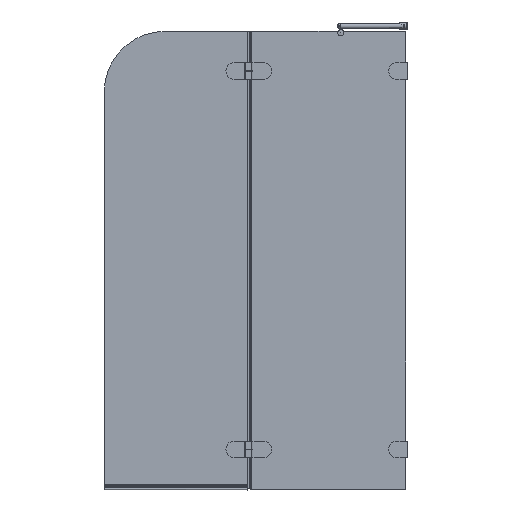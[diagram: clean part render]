
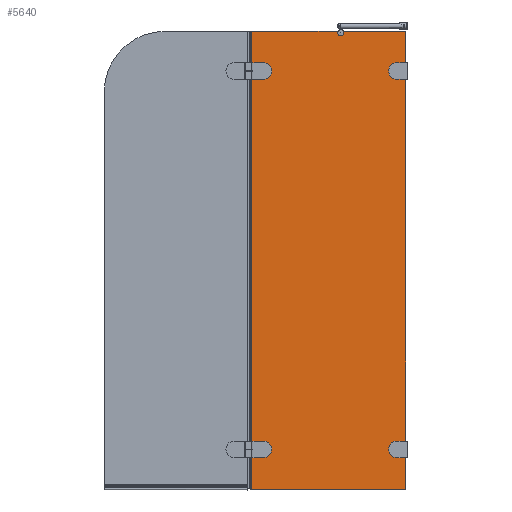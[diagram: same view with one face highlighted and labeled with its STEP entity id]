
A CAD part, front view. The second image highlights one B-rep face of the part: STEP entity #5640.
In plain terms, the highlighted planar face has unit normal (0, -1, 0).
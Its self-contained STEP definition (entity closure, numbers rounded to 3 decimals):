
#64=FACE_BOUND($,#777,.T.);
#65=FACE_BOUND($,#778,.T.);
#179=CIRCLE($,#6046,10.);
#180=CIRCLE($,#6047,26.);
#181=CIRCLE($,#6048,26.);
#452=FACE_OUTER_BOUND($,#776,.T.);
#776=EDGE_LOOP($,(#3909,#3910,#3911,#3912,#3913,#3914,#3915,#3916,#3917,
#3918,#3919));
#777=EDGE_LOOP($,(#3920,#3921,#3922,#3923));
#778=EDGE_LOOP($,(#3924,#3925,#3926,#3927));
#1126=LINE($,#8717,#1692);
#1127=LINE($,#8720,#1693);
#1130=LINE($,#8726,#1696);
#1148=LINE($,#8783,#1714);
#1161=LINE($,#8821,#1727);
#1166=LINE($,#8834,#1732);
#1167=LINE($,#8835,#1733);
#1168=LINE($,#8836,#1734);
#1169=LINE($,#8838,#1735);
#1170=LINE($,#8839,#1736);
#1171=LINE($,#8842,#1737);
#1172=LINE($,#8844,#1738);
#1173=LINE($,#8847,#1739);
#1174=LINE($,#8850,#1740);
#1175=LINE($,#8852,#1741);
#1176=LINE($,#8855,#1742);
#1692=VECTOR($,#6793,510.);
#1693=VECTOR($,#6796,1.);
#1696=VECTOR($,#6801,2.557);
#1714=VECTOR($,#6845,2.443);
#1727=VECTOR($,#6872,283.666);
#1732=VECTOR($,#6885,1500.);
#1733=VECTOR($,#6886,1500.);
#1734=VECTOR($,#6887,1500.);
#1735=VECTOR($,#6888,1501.);
#1736=VECTOR($,#6889,203.474);
#1737=VECTOR($,#6890,52.);
#1738=VECTOR($,#6891,23.);
#1739=VECTOR($,#6894,23.);
#1740=VECTOR($,#6895,52.);
#1741=VECTOR($,#6896,23.);
#1742=VECTOR($,#6899,23.);
#2296=VERTEX_POINT($,#8713);
#2297=VERTEX_POINT($,#8715);
#2298=VERTEX_POINT($,#8719);
#2299=VERTEX_POINT($,#8724);
#2300=VERTEX_POINT($,#8725);
#2325=VERTEX_POINT($,#8780);
#2326=VERTEX_POINT($,#8782);
#2327=VERTEX_POINT($,#8785);
#2344=VERTEX_POINT($,#8819);
#2348=VERTEX_POINT($,#8832);
#2349=VERTEX_POINT($,#8837);
#2350=VERTEX_POINT($,#8840);
#2351=VERTEX_POINT($,#8841);
#2352=VERTEX_POINT($,#8843);
#2353=VERTEX_POINT($,#8845);
#2354=VERTEX_POINT($,#8848);
#2355=VERTEX_POINT($,#8849);
#2356=VERTEX_POINT($,#8851);
#2357=VERTEX_POINT($,#8853);
#2876=EDGE_CURVE($,#2296,#2297,#1126,.T.);
#2877=EDGE_CURVE($,#2296,#2298,#1127,.T.);
#2880=EDGE_CURVE($,#2299,#2300,#1130,.T.);
#2908=EDGE_CURVE($,#2325,#2326,#1148,.T.);
#2928=EDGE_CURVE($,#2344,#2327,#1161,.T.);
#2934=EDGE_CURVE($,#2327,#2348,#179,.T.);
#2935=EDGE_CURVE($,#2344,#2299,#1166,.T.);
#2936=EDGE_CURVE($,#2300,#2326,#1167,.T.);
#2937=EDGE_CURVE($,#2325,#2298,#1168,.T.);
#2938=EDGE_CURVE($,#2349,#2297,#1169,.T.);
#2939=EDGE_CURVE($,#2348,#2349,#1170,.T.);
#2940=EDGE_CURVE($,#2350,#2351,#1171,.T.);
#2941=EDGE_CURVE($,#2352,#2350,#1172,.T.);
#2942=EDGE_CURVE($,#2353,#2352,#180,.T.);
#2943=EDGE_CURVE($,#2351,#2353,#1173,.T.);
#2944=EDGE_CURVE($,#2354,#2355,#1174,.T.);
#2945=EDGE_CURVE($,#2356,#2354,#1175,.T.);
#2946=EDGE_CURVE($,#2357,#2356,#181,.T.);
#2947=EDGE_CURVE($,#2355,#2357,#1176,.T.);
#3909=ORIENTED_EDGE($,*,*,#2934,.F.);
#3910=ORIENTED_EDGE($,*,*,#2928,.F.);
#3911=ORIENTED_EDGE($,*,*,#2935,.T.);
#3912=ORIENTED_EDGE($,*,*,#2880,.T.);
#3913=ORIENTED_EDGE($,*,*,#2936,.T.);
#3914=ORIENTED_EDGE($,*,*,#2908,.F.);
#3915=ORIENTED_EDGE($,*,*,#2937,.T.);
#3916=ORIENTED_EDGE($,*,*,#2877,.F.);
#3917=ORIENTED_EDGE($,*,*,#2876,.T.);
#3918=ORIENTED_EDGE($,*,*,#2938,.F.);
#3919=ORIENTED_EDGE($,*,*,#2939,.F.);
#3920=ORIENTED_EDGE($,*,*,#2940,.F.);
#3921=ORIENTED_EDGE($,*,*,#2941,.F.);
#3922=ORIENTED_EDGE($,*,*,#2942,.F.);
#3923=ORIENTED_EDGE($,*,*,#2943,.F.);
#3924=ORIENTED_EDGE($,*,*,#2944,.F.);
#3925=ORIENTED_EDGE($,*,*,#2945,.F.);
#3926=ORIENTED_EDGE($,*,*,#2946,.F.);
#3927=ORIENTED_EDGE($,*,*,#2947,.F.);
#5075=PLANE($,#6045);
#5640=ADVANCED_FACE($,(#452,#64,#65),#5075,.F.);
#6045=AXIS2_PLACEMENT_3D($,#8831,#6881,#6882);
#6046=AXIS2_PLACEMENT_3D($,#8833,#6883,#6884);
#6047=AXIS2_PLACEMENT_3D($,#8846,#6892,#6893);
#6048=AXIS2_PLACEMENT_3D($,#8854,#6897,#6898);
#6793=DIRECTION($,(1.,0.,0.));
#6796=DIRECTION($,(0.,0.,1.));
#6801=DIRECTION($,(-1.,0.,0.));
#6845=DIRECTION($,(1.,0.,0.));
#6872=DIRECTION($,(1.,0.,0.));
#6881=DIRECTION('center_axis',(0.,1.,0.));
#6882=DIRECTION('ref_axis',(1.,0.,0.));
#6883=DIRECTION('center_axis',(0.,-1.,0.));
#6884=DIRECTION('ref_axis',(0.,0.,
-1.));
#6885=DIRECTION($,(0.,0.,-1.));
#6886=DIRECTION($,(0.,0.,1.));
#6887=DIRECTION($,(0.,0.,-1.));
#6888=DIRECTION($,(0.,0.,-1.));
#6889=DIRECTION($,(1.,0.,0.));
#6890=DIRECTION($,(0.,0.,-1.));
#6891=DIRECTION($,(-1.,0.,0.));
#6892=DIRECTION('center_axis',(0.,-1.,0.));
#6893=DIRECTION('ref_axis',(0.,0.,
-1.));
#6894=DIRECTION($,(1.,0.,0.));
#6895=DIRECTION($,(0.,0.,-1.));
#6896=DIRECTION($,(-1.,0.,0.));
#6897=DIRECTION('center_axis',(0.,-1.,0.));
#6898=DIRECTION('ref_axis',(0.,0.,
-1.));
#6899=DIRECTION($,(1.,0.,0.));
#8713=CARTESIAN_POINT('',(1324.733,-34.044,24.944));
#8715=CARTESIAN_POINT('',(1834.733,-34.044,24.944));
#8717=CARTESIAN_POINT($,(1324.733,-34.044,24.944));
#8719=CARTESIAN_POINT('',(1324.733,-34.044,25.944));
#8720=CARTESIAN_POINT($,(1324.733,-34.044,24.944));
#8724=CARTESIAN_POINT('',(1329.733,-34.044,25.944));
#8725=CARTESIAN_POINT('',(1327.176,-34.044,25.944));
#8726=CARTESIAN_POINT($,(1325.336,-34.044,25.944));
#8780=CARTESIAN_POINT('',(1324.733,-34.044,1525.944));
#8782=CARTESIAN_POINT('',(1327.176,-34.044,1525.944));
#8783=CARTESIAN_POINT($,(1324.733,-34.044,1525.944));
#8785=CARTESIAN_POINT('',(1613.399,-34.044,1525.944));
#8819=CARTESIAN_POINT('',(1329.733,-34.044,1525.944));
#8821=CARTESIAN_POINT($,(1324.733,-34.044,1525.944));
#8831=CARTESIAN_POINT('Origin',(1324.733,-34.044,1525.944));
#8832=CARTESIAN_POINT('',(1631.259,-34.044,1525.944));
#8833=CARTESIAN_POINT('Origin',(1622.329,-34.044,1521.444));
#8834=CARTESIAN_POINT($,(1329.733,-34.044,1525.944));
#8835=CARTESIAN_POINT($,(1327.176,-34.044,1525.944));
#8836=CARTESIAN_POINT($,(1324.733,-34.044,1525.944));
#8837=CARTESIAN_POINT('',(1834.733,-34.044,1525.944));
#8838=CARTESIAN_POINT($,(1834.733,-34.044,1525.944));
#8839=CARTESIAN_POINT($,(1324.733,-34.044,1525.944));
#8840=CARTESIAN_POINT('',(1345.733,-34.044,181.944));
#8841=CARTESIAN_POINT('',(1345.733,-34.044,129.944));
#8842=CARTESIAN_POINT($,(1345.733,-34.044,181.944));
#8843=CARTESIAN_POINT('',(1368.733,-34.044,181.944));
#8844=CARTESIAN_POINT($,(1368.733,-34.044,181.944));
#8845=CARTESIAN_POINT('',(1368.733,-34.044,129.944));
#8846=CARTESIAN_POINT('Origin',(1368.733,-34.044,155.944));
#8847=CARTESIAN_POINT($,(1345.733,-34.044,129.944));
#8848=CARTESIAN_POINT('',(1345.733,-34.044,1421.944));
#8849=CARTESIAN_POINT('',(1345.733,-34.044,1369.944));
#8850=CARTESIAN_POINT($,(1345.733,-34.044,1421.944));
#8851=CARTESIAN_POINT('',(1368.733,-34.044,1421.944));
#8852=CARTESIAN_POINT($,(1368.733,-34.044,1421.944));
#8853=CARTESIAN_POINT('',(1368.733,-34.044,1369.944));
#8854=CARTESIAN_POINT('Origin',(1368.733,-34.044,1395.944));
#8855=CARTESIAN_POINT($,(1345.733,-34.044,1369.944));
